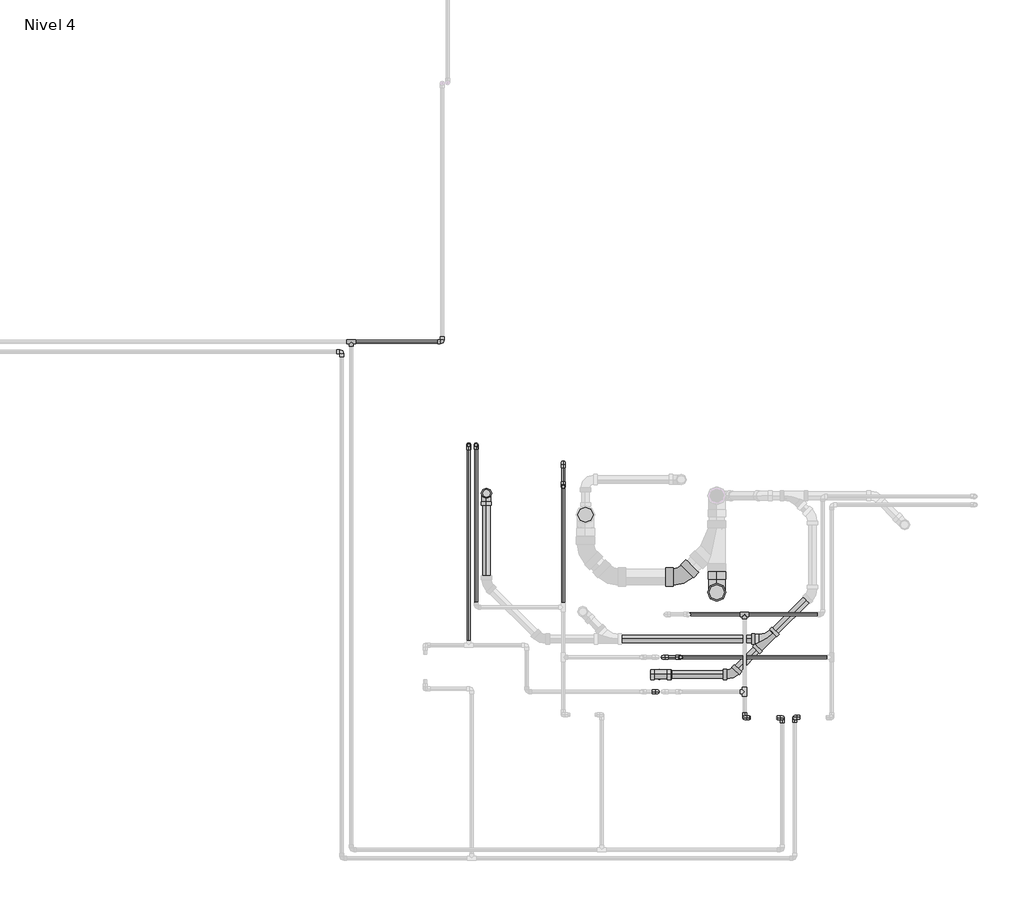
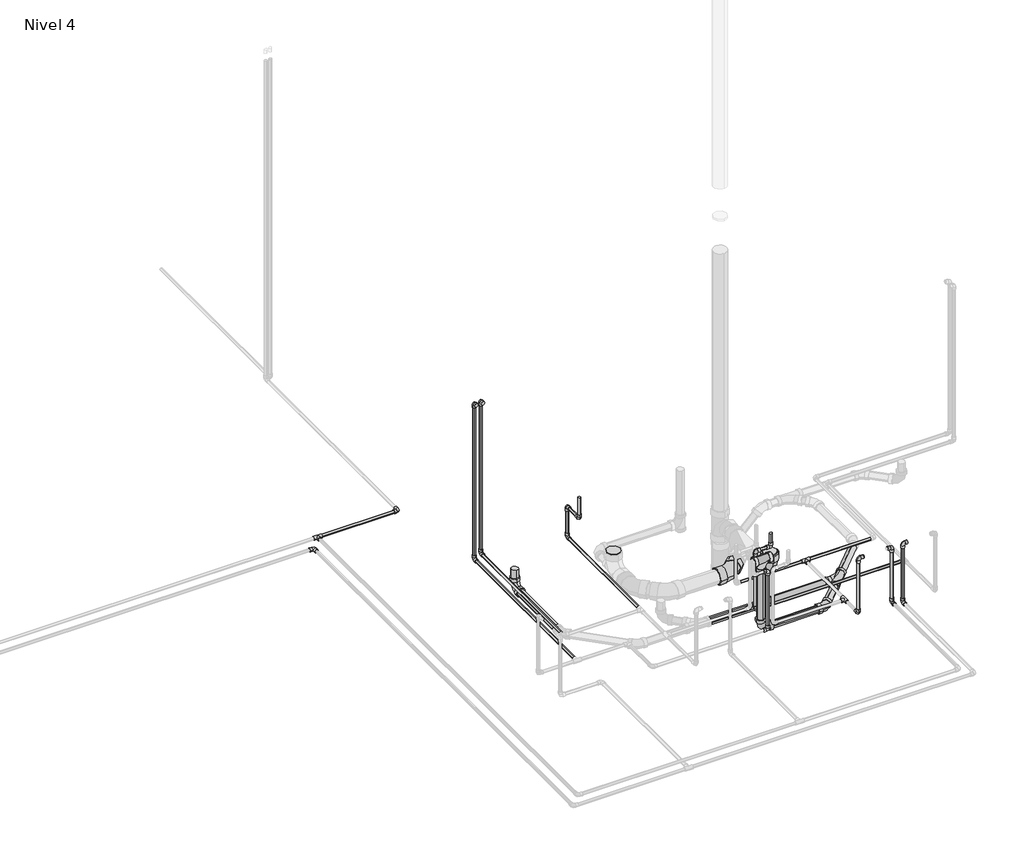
# One storey, part 3 of 9: 30 pipe fittings, 30 pipe segments.
"""IFC4 building model written with IfcOpenShell, lengths in millimetres."""

from ifc_helpers import new_model, si_unit, point, frame, frame_2d, origin, place, context, project, spatial, circle_curve, trimmed, segment, composite_curve, outline, extrude, transform, mapped, element, save
from components import pipe_fitting_ab418b84, pipe_fitting_0163322b, pipe_fitting_6ef1482d, m_codo_pvc_serie_40_9ad74631, m_codo_pvc_serie_40_ba05d404, m_codo_pvc_serie_40_dwv1_5c0ec739, m_codo_pvc_serie_40_dwv1_f5c0a64d, m_codo_pvc_serie_40_dwv1_9a7ca077, m_codo_pvc_serie_40_dwv1_6f1a2495

model = new_model("IFC4")

# Units and contexts
model_context = context("Model", 3, world=origin())
ifc_project = project(units=[si_unit("LENGTHUNIT", "METRE", prefix="MILLI")], contexts=[model_context])

# Site, building, storey
site = spatial("IfcSite", under=ifc_project)
building = spatial("IfcBuilding", under=site)
storey = spatial("IfcBuildingStorey", under=building, Name="Nivel 4", Elevation=8100.0)

# Pipe fittings
placement = place(None, origin())
pipe_fitting_shape = pipe_fitting_ab418b84(model_context)
element("IfcPipeFitting", 1, ObjectType="M_Te - PVC - Serie 40 : Estándar", at=placement, inside=storey, context=model_context, shape_type="MappedRepresentation", body=[
    mapped(pipe_fitting_shape, transform((4915.0072403, 7617.0181394, 8050.0), x_axis=(1.0, 0.0, 0.0), y_axis=(0.0, 1.0, 0.0), z_axis=(0.0, 0.0, 1.0))),
])
element("IfcPipeFitting", 2, ObjectType="M_Te - PVC - Serie 40 : Estándar", at=placement, inside=storey, context=model_context, shape_type="MappedRepresentation", body=[
    mapped(pipe_fitting_shape, transform((7622.9224126, 5206.6215833, 8050.0), x_axis=(0.0, 1.0, 0.0), y_axis=(1.0, 0.0, 0.0), z_axis=(0.0, 0.0, -1.0))),
])
element("IfcPipeFitting", 3, ObjectType="M_Te - PVC - Serie 40 : Estándar", at=placement, inside=storey, context=model_context, shape_type="MappedRepresentation", body=[
    mapped(pipe_fitting_shape, transform((7622.9224126, 5738.1215351, 8050.0), x_axis=(1.0, 0.0, 0.0), y_axis=(0.0, 1.0, 0.0), z_axis=(0.0, 0.0, 1.0))),
])
pipe_fitting_2_shape = pipe_fitting_0163322b(model_context)
element("IfcPipeFitting", 4, ObjectType="M_Sanitario con te de reducción - PVC - Serie 40 - DWV : Estándar", at=placement, inside=storey, context=model_context, shape_type="MappedRepresentation", body=[
    mapped(pipe_fitting_2_shape, transform((7780.3477467, 5569.8260974, 7950.0), x_axis=(-0.707106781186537, -0.7071067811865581, 0.0), y_axis=(0.7071067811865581, -0.707106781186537, 0.0), z_axis=(0.0, 0.0, 1.0))),
])
pipe_fitting_3_shape = pipe_fitting_6ef1482d(model_context)
element("IfcPipeFitting", 5, ObjectType="M_Sanitario con te de reducción - PVC - Serie 40 - DWV : Estándar", at=placement, inside=storey, context=model_context, shape_type="MappedRepresentation", body=[
    mapped(pipe_fitting_3_shape, transform((7035.5216492, 5325.0, 8510.6716548), x_axis=(-1.0, 0.0, 0.0), y_axis=(0.0, 0.0, 1.0), z_axis=(0.0, 1.0, 0.0))),
])
m_codo_pvc_serie_40_shape = m_codo_pvc_serie_40_9ad74631(model_context)
element("IfcPipeFitting", 6, ObjectType="M_Codo - PVC - Serie 40 : Estándar", at=placement, inside=storey, context=model_context, shape_type="MappedRepresentation", body=[
    mapped(m_codo_pvc_serie_40_shape, transform((6373.4849581, 6618.6807861, 8300.0), x_axis=(0.0, 0.0, -1.0), y_axis=(0.0, 1.0, 0.0), z_axis=(1.0, 0.0, 0.0))),
])
element("IfcPipeFitting", 7, ObjectType="M_Codo - PVC - Serie 40 : Estándar", at=placement, inside=storey, context=model_context, shape_type="MappedRepresentation", body=[
    mapped(m_codo_pvc_serie_40_shape, transform((6373.4849581, 6783.6807861, 8300.0), x_axis=(0.0, 1.0, 0.0), y_axis=(0.0, 0.0, -1.0), z_axis=(-1.0, 0.0, 0.0))),
])
element("IfcPipeFitting", 8, ObjectType="M_Codo - PVC - Serie 40 : Estándar", at=placement, inside=storey, context=model_context, shape_type="MappedRepresentation", body=[
    mapped(m_codo_pvc_serie_40_shape, transform((5541.6630441, 7617.0181394, 8050.0), x_axis=(1.0, 0.0, 0.0), y_axis=(0.0, 1.0, 0.0), z_axis=(0.0, 0.0, 1.0))),
])
element("IfcPipeFitting", 9, ObjectType="M_Codo - PVC - Serie 40 : Estándar", at=placement, inside=storey, context=model_context, shape_type="MappedRepresentation", body=[
    mapped(m_codo_pvc_serie_40_shape, transform((6373.4849581, 6783.6807861, 8050.0), x_axis=(0.0, 0.0, -1.0), y_axis=(0.0, -1.0, 0.0), z_axis=(-1.0, 0.0, 0.0))),
])
element("IfcPipeFitting", 10, ObjectType="M_Codo - PVC - Serie 40 : Estándar", at=placement, inside=storey, context=model_context, shape_type="MappedRepresentation", body=[
    mapped(m_codo_pvc_serie_40_shape, transform((7622.9224126, 5026.6215833, 8050.0), x_axis=(0.0, -1.0, 0.0), y_axis=(0.0, 0.0, 1.0), z_axis=(-1.0, 0.0, 0.0))),
])
element("IfcPipeFitting", 11, ObjectType="M_Codo - PVC - Serie 40 : Estándar", at=placement, inside=storey, context=model_context, shape_type="MappedRepresentation", body=[
    mapped(m_codo_pvc_serie_40_shape, transform((7622.9224126, 5026.6215833, 8500.0), x_axis=(0.0, 0.0, 1.0), y_axis=(1.0, 0.0, 0.0), z_axis=(0.0, 1.0, 0.0))),
])
element("IfcPipeFitting", 12, ObjectType="M_Codo - PVC - Serie 40 : Estándar", at=placement, inside=storey, context=model_context, shape_type="MappedRepresentation", body=[
    mapped(m_codo_pvc_serie_40_shape, transform((7882.9224126, 5026.6215833, 8500.0), x_axis=(1.0, 0.0, 0.0), y_axis=(0.0, 0.0, -1.0), z_axis=(0.0, 1.0, 0.0))),
])
element("IfcPipeFitting", 13, ObjectType="M_Codo - PVC - Serie 40 : Estándar", at=placement, inside=storey, context=model_context, shape_type="MappedRepresentation", body=[
    mapped(m_codo_pvc_serie_40_shape, transform((7882.9224126, 5026.6215833, 8050.0), x_axis=(0.0, 0.0, -1.0), y_axis=(0.0, -1.0, 0.0), z_axis=(-1.0, 0.0, 0.0))),
])
element("IfcPipeFitting", 14, ObjectType="M_Codo - PVC - Serie 40 : Estándar", at=placement, inside=storey, context=model_context, shape_type="MappedRepresentation", body=[
    mapped(m_codo_pvc_serie_40_shape, transform((5773.4849581, 6908.5620607, 8050.0), x_axis=(0.0, 1.0, 0.0), y_axis=(0.0, 0.0, 1.0), z_axis=(1.0, 0.0, 0.0))),
])
element("IfcPipeFitting", 15, ObjectType="M_Codo - PVC - Serie 40 : Estándar", at=placement, inside=storey, context=model_context, shape_type="MappedRepresentation", body=[
    mapped(m_codo_pvc_serie_40_shape, transform((5773.4849581, 6908.5620607, 9300.0), x_axis=(0.0, 0.0, 1.0), y_axis=(0.0, -1.0, 0.0), z_axis=(1.0, 0.0, 0.0))),
])
element("IfcPipeFitting", 16, ObjectType="M_Codo - PVC - Serie 40 : Estándar", at=placement, inside=storey, context=model_context, shape_type="MappedRepresentation", body=[
    mapped(m_codo_pvc_serie_40_shape, transform((4848.2736664, 7548.5261191, 8020.0), x_axis=(0.0, 1.0, 0.0), y_axis=(-1.0, 0.0, 0.0), z_axis=(0.0, 0.0, 1.0))),
])
element("IfcPipeFitting", 17, ObjectType="M_Codo - PVC - Serie 40 : Estándar", at=placement, inside=storey, context=model_context, shape_type="MappedRepresentation", body=[
    mapped(m_codo_pvc_serie_40_shape, transform((7968.2736664, 5028.5261191, 8020.0), x_axis=(0.0, 1.0, 0.0), y_axis=(0.0, 0.0, 1.0), z_axis=(1.0, 0.0, 0.0))),
])
element("IfcPipeFitting", 18, ObjectType="M_Codo - PVC - Serie 40 : Estándar", at=placement, inside=storey, context=model_context, shape_type="MappedRepresentation", body=[
    mapped(m_codo_pvc_serie_40_shape, transform((7968.2736664, 5028.5261191, 8500.0), x_axis=(0.0, 0.0, 1.0), y_axis=(1.0, 0.0, 0.0), z_axis=(0.0, 1.0, 0.0))),
])
element("IfcPipeFitting", 19, ObjectType="M_Codo - PVC - Serie 40 : Estándar", at=placement, inside=storey, context=model_context, shape_type="MappedRepresentation", body=[
    mapped(m_codo_pvc_serie_40_shape, transform((7062.9224126, 5443.3784167, 8020.0), x_axis=(0.0, 0.0, -1.0), y_axis=(1.0, 0.0, 0.0), z_axis=(0.0, -1.0, 0.0))),
])
element("IfcPipeFitting", 20, ObjectType="M_Codo - PVC - Serie 40 : Estándar", at=placement, inside=storey, context=model_context, shape_type="MappedRepresentation", body=[
    mapped(m_codo_pvc_serie_40_shape, transform((5723.2442783, 6907.8715833, 8020.0), x_axis=(0.0, 1.0, 0.0), y_axis=(0.0, 0.0, 1.0), z_axis=(1.0, 0.0, 0.0))),
])
element("IfcPipeFitting", 21, ObjectType="M_Codo - PVC - Serie 40 : Estándar", at=placement, inside=storey, context=model_context, shape_type="MappedRepresentation", body=[
    mapped(m_codo_pvc_serie_40_shape, transform((5723.2442783, 6907.8715833, 9300.0), x_axis=(0.0, 0.0, 1.0), y_axis=(0.0, -1.0, 0.0), z_axis=(1.0, 0.0, 0.0))),
])
m_codo_pvc_serie_40_2_shape = m_codo_pvc_serie_40_ba05d404(model_context)
element("IfcPipeFitting", 22, ObjectType="M_Codo - PVC - Serie 40 : Estándar", at=placement, inside=storey, context=model_context, shape_type="MappedRepresentation", body=[
    mapped(m_codo_pvc_serie_40_2_shape, transform((7022.0365713, 5206.6215833, 8500.0), x_axis=(1.0, 0.0, 0.0), y_axis=(0.0, 0.0, 1.0), z_axis=(0.0, -1.0, 0.0))),
])
element("IfcPipeFitting", 23, ObjectType="M_Codo - PVC - Serie 40 : Estándar", at=placement, inside=storey, context=model_context, shape_type="MappedRepresentation", body=[
    mapped(m_codo_pvc_serie_40_2_shape, transform((7022.0365713, 5206.6215833, 8020.0), x_axis=(0.0, 0.0, -1.0), y_axis=(1.0, 0.0, 0.0), z_axis=(0.0, -1.0, 0.0))),
])
element("IfcPipeFitting", 24, ObjectType="M_Codo - PVC - Serie 40 : Estándar", at=placement, inside=storey, context=model_context, shape_type="MappedRepresentation", body=[
    mapped(m_codo_pvc_serie_40_2_shape, transform((7182.9224126, 5443.3784167, 8500.0), x_axis=(0.0, 0.0, -1.0), y_axis=(1.0, 0.0, 0.0), z_axis=(0.0, -1.0, 0.0))),
])
element("IfcPipeFitting", 25, ObjectType="M_Codo - PVC - Serie 40 : Estándar", at=placement, inside=storey, context=model_context, shape_type="MappedRepresentation", body=[
    mapped(m_codo_pvc_serie_40_2_shape, transform((7062.9224126, 5443.3784167, 8500.0), x_axis=(-1.0, 0.0, 0.0), y_axis=(0.0, 0.0, 1.0), z_axis=(0.0, 1.0, 0.0))),
])
m_codo_pvc_serie_40_dwv1_shape = m_codo_pvc_serie_40_dwv1_5c0ec739(model_context)
element("IfcPipeFitting", 26, ObjectType="M_Codo - PVC - Serie 40 - DWV1 : Estándar 2", at=placement, inside=storey, context=model_context, shape_type="MappedRepresentation", body=[
    mapped(m_codo_pvc_serie_40_dwv1_shape, transform((7035.5216492, 5325.0, 7950.0), x_axis=(0.0, 0.0, -1.0), y_axis=(1.0, 0.0, 0.0), z_axis=(0.0, -1.0, 0.0))),
])
element("IfcPipeFitting", 27, ObjectType="M_Codo - PVC - Serie 40 - DWV1 : Estándar 2", at=placement, inside=storey, context=model_context, shape_type="MappedRepresentation", body=[
    mapped(m_codo_pvc_serie_40_dwv1_shape, transform((5845.3355737, 6572.9803974, 7950.0), x_axis=(0.0, 1.0, 0.0), y_axis=(0.0, 0.0, 1.0), z_axis=(1.0, 0.0, 0.0))),
])
m_codo_pvc_serie_40_dwv1_2_shape = m_codo_pvc_serie_40_dwv1_f5c0a64d(model_context)
element("IfcPipeFitting", 28, ObjectType="M_Codo - PVC - Serie 40 - DWV1 : Estándar 2", at=placement, inside=storey, context=model_context, shape_type="MappedRepresentation", body=[
    mapped(m_codo_pvc_serie_40_dwv1_2_shape, transform((7432.3176766, 5891.6039726, 7950.0), x_axis=(0.0, 0.0, -1.0), y_axis=(0.0, 1.0, 0.0), z_axis=(1.0, 0.0, 0.0))),
])
m_codo_pvc_serie_40_dwv1_3_shape = m_codo_pvc_serie_40_dwv1_9a7ca077(model_context)
element("IfcPipeFitting", 29, ObjectType="M_Codo - PVC - Serie 40 - DWV1 : Estándar 2", at=placement, inside=storey, context=model_context, shape_type="MappedRepresentation", body=[
    mapped(m_codo_pvc_serie_40_dwv1_3_shape, transform((7188.0943794, 5996.1455314, 7950.0), x_axis=(1.0, 0.0, 0.0), y_axis=(0.0, 1.0, 0.0), z_axis=(0.0, 0.0, 1.0))),
])
m_codo_pvc_serie_40_dwv1_4_shape = m_codo_pvc_serie_40_dwv1_6f1a2495(model_context)
element("IfcPipeFitting", 30, ObjectType="M_Codo - PVC - Serie 40 - DWV1 : Estándar 2", at=placement, inside=storey, context=model_context, shape_type="MappedRepresentation", body=[
    mapped(m_codo_pvc_serie_40_dwv1_4_shape, transform((7535.5216492, 5325.0, 7950.0), x_axis=(1.0, 0.0, 0.0), y_axis=(0.0, 1.0, 0.0), z_axis=(0.0, 0.0, 1.0))),
])

# Pipe segments
element("IfcPipeSegment", 31, ObjectType="Tuberia PVC Agua Fria", at=placement, inside=storey, context=model_context, shape_type="SweptSolid", body=[
    extrude(outline(composite_curve([segment(trimmed(circle_curve(frame_2d((8300.0, 6373.4849581)), 10.31875), [point((8300.0, 6383.8037081))], [point((8310.31875, 6373.4849581))], False, "CARTESIAN"), True, "CONTINUOUS"), segment(trimmed(circle_curve(frame_2d((8300.0, 6373.4849581)), 10.31875), [point((8310.31875, 6373.4849581))], [point((8300.0, 6363.1662081))], False, "CARTESIAN"), True, "CONTINUOUS"), segment(trimmed(circle_curve(frame_2d((8300.0, 6373.4849581)), 10.31875), [point((8300.0, 6363.1662081))], [point((8289.68125, 6373.4849581))], False, "CARTESIAN"), True, "CONTINUOUS"), segment(trimmed(circle_curve(frame_2d((8300.0, 6373.4849581)), 10.31875), [point((8289.68125, 6373.4849581))], [point((8300.0, 6383.8037081))], False, "CARTESIAN"), True, "CONTINUOUS")], self_intersect=False)), frame((0.0, 6652.0817861, 0.0), z_axis=(0.0, 1.0, 0.0), x_axis=(0.0, 0.0, 1.0)), (0.0, 0.0, 1.0), 98.198),
])
element("IfcPipeSegment", 32, ObjectType="Tuberia PVC Agua Fria", at=placement, inside=storey, context=model_context, shape_type="SweptSolid", body=[
    extrude(outline(composite_curve([segment(trimmed(circle_curve(frame_2d((6373.4849581, 6618.6807861)), 10.31875), [point((6383.8037081, 6618.6807861))], [point((6373.4849581, 6608.3620361))], False, "CARTESIAN"), True, "CONTINUOUS"), segment(trimmed(circle_curve(frame_2d((6373.4849581, 6618.6807861)), 10.31875), [point((6373.4849581, 6608.3620361))], [point((6363.1662081, 6618.6807861))], False, "CARTESIAN"), True, "CONTINUOUS"), segment(trimmed(circle_curve(frame_2d((6373.4849581, 6618.6807861)), 10.31875), [point((6363.1662081, 6618.6807861))], [point((6373.4849581, 6628.9995361))], False, "CARTESIAN"), True, "CONTINUOUS"), segment(trimmed(circle_curve(frame_2d((6373.4849581, 6618.6807861)), 10.31875), [point((6373.4849581, 6628.9995361))], [point((6383.8037081, 6618.6807861))], False, "CARTESIAN"), True, "CONTINUOUS")], self_intersect=False)), frame((0.0, 0.0, 8333.401), z_axis=(0.0, 0.0, 1.0), x_axis=(1.0, 0.0, 0.0)), (0.0, 0.0, 1.0), 139.7562509),
])
element("IfcPipeSegment", 33, ObjectType="Tuberia PVC Agua Fria", at=placement, inside=storey, context=model_context, shape_type="SweptSolid", body=[
    extrude(outline(composite_curve([segment(trimmed(circle_curve(frame_2d((6373.4849581, 6783.6807861)), 10.31875), [point((6383.8037081, 6783.6807861))], [point((6373.4849581, 6773.3620361))], False, "CARTESIAN"), True, "CONTINUOUS"), segment(trimmed(circle_curve(frame_2d((6373.4849581, 6783.6807861)), 10.31875), [point((6373.4849581, 6773.3620361))], [point((6363.1662081, 6783.6807861))], False, "CARTESIAN"), True, "CONTINUOUS"), segment(trimmed(circle_curve(frame_2d((6373.4849581, 6783.6807861)), 10.31875), [point((6363.1662081, 6783.6807861))], [point((6373.4849581, 6793.9995361))], False, "CARTESIAN"), True, "CONTINUOUS"), segment(trimmed(circle_curve(frame_2d((6373.4849581, 6783.6807861)), 10.31875), [point((6373.4849581, 6793.9995361))], [point((6383.8037081, 6783.6807861))], False, "CARTESIAN"), True, "CONTINUOUS")], self_intersect=False)), frame((0.0, 0.0, 8083.401), z_axis=(0.0, 0.0, 1.0), x_axis=(1.0, 0.0, 0.0)), (0.0, 0.0, 1.0), 183.198),
])
element("IfcPipeSegment", 34, ObjectType="Tuberia PVC Agua Fria", at=placement, inside=storey, context=model_context, shape_type="SweptSolid", body=[
    extrude(outline(composite_curve([segment(trimmed(circle_curve(frame_2d((7617.0181394, 8050.0)), 10.31875), [point((7627.3368894, 8050.0))], [point((7617.0181394, 8039.68125))], False, "CARTESIAN"), True, "CONTINUOUS"), segment(trimmed(circle_curve(frame_2d((7617.0181394, 8050.0)), 10.31875), [point((7617.0181394, 8039.68125))], [point((7606.6993894, 8050.0))], False, "CARTESIAN"), True, "CONTINUOUS"), segment(trimmed(circle_curve(frame_2d((7617.0181394, 8050.0)), 10.31875), [point((7606.6993894, 8050.0))], [point((7617.0181394, 8060.31875))], False, "CARTESIAN"), True, "CONTINUOUS"), segment(trimmed(circle_curve(frame_2d((7617.0181394, 8050.0)), 10.31875), [point((7617.0181394, 8060.31875))], [point((7627.3368894, 8050.0))], False, "CARTESIAN"), True, "CONTINUOUS")], self_intersect=False)), frame((4945.4673966, 0.0, 0.0), z_axis=(1.0, 0.0, 0.0), x_axis=(0.0, 1.0, 0.0)), (0.0, 0.0, 1.0), 562.7946475),
])
element("IfcPipeSegment", 35, ObjectType="Tuberia PVC Agua Fria", at=placement, inside=storey, context=model_context, shape_type="SweptSolid", body=[
    extrude(outline(composite_curve([segment(trimmed(circle_curve(frame_2d((8050.0, 6373.4849581)), 10.31875), [point((8050.0, 6383.8037081))], [point((8060.31875, 6373.4849581))], False, "CARTESIAN"), True, "CONTINUOUS"), segment(trimmed(circle_curve(frame_2d((8050.0, 6373.4849581)), 10.31875), [point((8060.31875, 6373.4849581))], [point((8050.0, 6363.1662081))], False, "CARTESIAN"), True, "CONTINUOUS"), segment(trimmed(circle_curve(frame_2d((8050.0, 6373.4849581)), 10.31875), [point((8050.0, 6363.1662081))], [point((8039.68125, 6373.4849581))], False, "CARTESIAN"), True, "CONTINUOUS"), segment(trimmed(circle_curve(frame_2d((8050.0, 6373.4849581)), 10.31875), [point((8039.68125, 6373.4849581))], [point((8050.0, 6383.8037081))], False, "CARTESIAN"), True, "CONTINUOUS")], self_intersect=False)), frame((0.0, 5819.0222169, 0.0), z_axis=(0.0, 1.0, 0.0), x_axis=(0.0, 0.0, 1.0)), (0.0, 0.0, 1.0), 931.2575692),
])
element("IfcPipeSegment", 36, ObjectType="Tuberia PVC Agua Fria", at=placement, inside=storey, context=model_context, shape_type="SweptSolid", body=[
    extrude(outline(composite_curve([segment(trimmed(circle_curve(frame_2d((7622.9224126, 5026.6215833)), 10.31875), [point((7612.6036626, 5026.6215833))], [point((7622.9224126, 5036.9403333))], False, "CARTESIAN"), True, "CONTINUOUS"), segment(trimmed(circle_curve(frame_2d((7622.9224126, 5026.6215833)), 10.31875), [point((7622.9224126, 5036.9403333))], [point((7633.2411626, 5026.6215833))], False, "CARTESIAN"), True, "CONTINUOUS"), segment(trimmed(circle_curve(frame_2d((7622.9224126, 5026.6215833)), 10.31875), [point((7633.2411626, 5026.6215833))], [point((7622.9224126, 5016.3028333))], False, "CARTESIAN"), True, "CONTINUOUS"), segment(trimmed(circle_curve(frame_2d((7622.9224126, 5026.6215833)), 10.31875), [point((7622.9224126, 5016.3028333))], [point((7612.6036626, 5026.6215833))], False, "CARTESIAN"), True, "CONTINUOUS")], self_intersect=False)), frame((0.0, 0.0, 8083.401), z_axis=(0.0, 0.0, 1.0), x_axis=(1.0, 0.0, 0.0)), (0.0, 0.0, 1.0), 383.198),
])
element("IfcPipeSegment", 37, ObjectType="Tuberia PVC Agua Fria", at=placement, inside=storey, context=model_context, shape_type="SweptSolid", body=[
    extrude(outline(composite_curve([segment(trimmed(circle_curve(frame_2d((7882.9224126, 5026.6215833)), 10.31875), [point((7893.2411626, 5026.6215833))], [point((7882.9224126, 5016.3028333))], False, "CARTESIAN"), True, "CONTINUOUS"), segment(trimmed(circle_curve(frame_2d((7882.9224126, 5026.6215833)), 10.31875), [point((7882.9224126, 5016.3028333))], [point((7872.6036626, 5026.6215833))], False, "CARTESIAN"), True, "CONTINUOUS"), segment(trimmed(circle_curve(frame_2d((7882.9224126, 5026.6215833)), 10.31875), [point((7872.6036626, 5026.6215833))], [point((7882.9224126, 5036.9403333))], False, "CARTESIAN"), True, "CONTINUOUS"), segment(trimmed(circle_curve(frame_2d((7882.9224126, 5026.6215833)), 10.31875), [point((7882.9224126, 5036.9403333))], [point((7893.2411626, 5026.6215833))], False, "CARTESIAN"), True, "CONTINUOUS")], self_intersect=False)), frame((0.0, 0.0, 8083.401), z_axis=(0.0, 0.0, 1.0), x_axis=(1.0, 0.0, 0.0)), (0.0, 0.0, 1.0), 383.198),
])
element("IfcPipeSegment", 38, ObjectType="Tuberia PVC Agua Fria", at=placement, inside=storey, context=model_context, shape_type="SweptSolid", body=[
    extrude(outline(composite_curve([segment(trimmed(circle_curve(frame_2d((8050.0, 5773.4849581)), 10.31875), [point((8050.0, 5783.8037081))], [point((8060.31875, 5773.4849581))], False, "CARTESIAN"), True, "CONTINUOUS"), segment(trimmed(circle_curve(frame_2d((8050.0, 5773.4849581)), 10.31875), [point((8060.31875, 5773.4849581))], [point((8050.0, 5763.1662081))], False, "CARTESIAN"), True, "CONTINUOUS"), segment(trimmed(circle_curve(frame_2d((8050.0, 5773.4849581)), 10.31875), [point((8050.0, 5763.1662081))], [point((8039.68125, 5773.4849581))], False, "CARTESIAN"), True, "CONTINUOUS"), segment(trimmed(circle_curve(frame_2d((8050.0, 5773.4849581)), 10.31875), [point((8039.68125, 5773.4849581))], [point((8050.0, 5783.8037081))], False, "CARTESIAN"), True, "CONTINUOUS")], self_intersect=False)), frame((0.0, 5821.9630607, 0.0), z_axis=(0.0, 1.0, 0.0), x_axis=(0.0, 0.0, 1.0)), (0.0, 0.0, 1.0), 1053.198),
])
element("IfcPipeSegment", 39, ObjectType="Tuberia PVC Agua Fria", at=placement, inside=storey, context=model_context, shape_type="SweptSolid", body=[
    extrude(outline(composite_curve([segment(trimmed(circle_curve(frame_2d((5773.4849581, 6908.5620607)), 10.31875), [point((5763.1662081, 6908.5620607))], [point((5773.4849581, 6918.8808107))], False, "CARTESIAN"), True, "CONTINUOUS"), segment(trimmed(circle_curve(frame_2d((5773.4849581, 6908.5620607)), 10.31875), [point((5773.4849581, 6918.8808107))], [point((5783.8037081, 6908.5620607))], False, "CARTESIAN"), True, "CONTINUOUS"), segment(trimmed(circle_curve(frame_2d((5773.4849581, 6908.5620607)), 10.31875), [point((5783.8037081, 6908.5620607))], [point((5773.4849581, 6898.2433107))], False, "CARTESIAN"), True, "CONTINUOUS"), segment(trimmed(circle_curve(frame_2d((5773.4849581, 6908.5620607)), 10.31875), [point((5773.4849581, 6898.2433107))], [point((5763.1662081, 6908.5620607))], False, "CARTESIAN"), True, "CONTINUOUS")], self_intersect=False)), frame((0.0, 0.0, 8083.401), z_axis=(0.0, 0.0, 1.0), x_axis=(1.0, 0.0, 0.0)), (0.0, 0.0, 1.0), 1183.198),
])
element("IfcPipeSegment", 40, ObjectType="Tuberia PVC Agua Fria", at=placement, inside=storey, context=model_context, shape_type="SweptSolid", body=[
    extrude(outline(composite_curve([segment(trimmed(circle_curve(frame_2d((5738.1215351, 8050.0)), 10.31875), [point((5748.4402851, 8050.0))], [point((5738.1215351, 8039.68125))], False, "CARTESIAN"), True, "CONTINUOUS"), segment(trimmed(circle_curve(frame_2d((5738.1215351, 8050.0)), 10.31875), [point((5738.1215351, 8039.68125))], [point((5727.8027851, 8050.0))], False, "CARTESIAN"), True, "CONTINUOUS"), segment(trimmed(circle_curve(frame_2d((5738.1215351, 8050.0)), 10.31875), [point((5727.8027851, 8050.0))], [point((5738.1215351, 8060.31875))], False, "CARTESIAN"), True, "CONTINUOUS"), segment(trimmed(circle_curve(frame_2d((5738.1215351, 8050.0)), 10.31875), [point((5738.1215351, 8060.31875))], [point((5748.4402851, 8050.0))], False, "CARTESIAN"), True, "CONTINUOUS")], self_intersect=False)), frame((7112.7418631, 0.0, 0.0), z_axis=(1.0, 0.0, 0.0), x_axis=(0.0, 1.0, 0.0)), (0.0, 0.0, 1.0), 479.7203933),
])
element("IfcPipeSegment", 41, ObjectType="Tuberia PVC Agua Fria", at=placement, inside=storey, context=model_context, shape_type="SweptSolid", body=[
    extrude(outline(composite_curve([segment(trimmed(circle_curve(frame_2d((5738.1215351, 8050.0)), 10.31875), [point((5748.4402851, 8050.0))], [point((5738.1215351, 8039.68125))], False, "CARTESIAN"), True, "CONTINUOUS"), segment(trimmed(circle_curve(frame_2d((5738.1215351, 8050.0)), 10.31875), [point((5738.1215351, 8039.68125))], [point((5727.8027851, 8050.0))], False, "CARTESIAN"), True, "CONTINUOUS"), segment(trimmed(circle_curve(frame_2d((5738.1215351, 8050.0)), 10.31875), [point((5727.8027851, 8050.0))], [point((5738.1215351, 8060.31875))], False, "CARTESIAN"), True, "CONTINUOUS"), segment(trimmed(circle_curve(frame_2d((5738.1215351, 8050.0)), 10.31875), [point((5738.1215351, 8060.31875))], [point((5748.4402851, 8050.0))], False, "CARTESIAN"), True, "CONTINUOUS")], self_intersect=False)), frame((7653.3825689, 0.0, 0.0), z_axis=(1.0, 0.0, 0.0), x_axis=(0.0, 1.0, 0.0)), (0.0, 0.0, 1.0), 473.9388792),
])
element("IfcPipeSegment", 42, ObjectType="Tuberia PVC Agua Fria", at=placement, inside=storey, context=model_context, shape_type="SweptSolid", body=[
    extrude(outline(composite_curve([segment(trimmed(circle_curve(frame_2d((5026.6215833, 8500.0)), 10.31875), [point((5016.3028333, 8500.0))], [point((5026.6215833, 8510.31875))], False, "CARTESIAN"), True, "CONTINUOUS"), segment(trimmed(circle_curve(frame_2d((5026.6215833, 8500.0)), 10.31875), [point((5026.6215833, 8510.31875))], [point((5036.9403333, 8500.0))], False, "CARTESIAN"), True, "CONTINUOUS"), segment(trimmed(circle_curve(frame_2d((5026.6215833, 8500.0)), 10.31875), [point((5036.9403333, 8500.0))], [point((5026.6215833, 8489.68125))], False, "CARTESIAN"), True, "CONTINUOUS"), segment(trimmed(circle_curve(frame_2d((5026.6215833, 8500.0)), 10.31875), [point((5026.6215833, 8489.68125))], [point((5016.3028333, 8500.0))], False, "CARTESIAN"), True, "CONTINUOUS")], self_intersect=False)), frame((7656.3234126, 0.0, 0.0), z_axis=(1.0, 0.0, 0.0), x_axis=(0.0, 1.0, 0.0)), (0.0, 0.0, 1.0), 7.599),
])
element("IfcPipeSegment", 43, ObjectType="Tuberia PVC Agua Caliente", at=placement, inside=storey, context=model_context, shape_type="SweptSolid", body=[
    extrude(outline(composite_curve([segment(trimmed(circle_curve(frame_2d((7968.2736664, 5028.5261191)), 10.31875), [point((7957.9549164, 5028.5261191))], [point((7968.2736664, 5038.8448691))], False, "CARTESIAN"), True, "CONTINUOUS"), segment(trimmed(circle_curve(frame_2d((7968.2736664, 5028.5261191)), 10.31875), [point((7968.2736664, 5038.8448691))], [point((7978.5924164, 5028.5261191))], False, "CARTESIAN"), True, "CONTINUOUS"), segment(trimmed(circle_curve(frame_2d((7968.2736664, 5028.5261191)), 10.31875), [point((7978.5924164, 5028.5261191))], [point((7968.2736664, 5018.2073691))], False, "CARTESIAN"), True, "CONTINUOUS"), segment(trimmed(circle_curve(frame_2d((7968.2736664, 5028.5261191)), 10.31875), [point((7968.2736664, 5018.2073691))], [point((7957.9549164, 5028.5261191))], False, "CARTESIAN"), True, "CONTINUOUS")], self_intersect=False)), frame((0.0, 0.0, 8053.401), z_axis=(0.0, 0.0, 1.0), x_axis=(1.0, 0.0, 0.0)), (0.0, 0.0, 1.0), 413.198),
])
element("IfcPipeSegment", 44, ObjectType="Tuberia PVC Agua Caliente", at=placement, inside=storey, context=model_context, shape_type="SweptSolid", body=[
    extrude(outline(composite_curve([segment(trimmed(circle_curve(frame_2d((7022.0365713, 5206.6215833)), 10.31875), [point((7032.3553213, 5206.6215833))], [point((7022.0365713, 5196.3028333))], False, "CARTESIAN"), True, "CONTINUOUS"), segment(trimmed(circle_curve(frame_2d((7022.0365713, 5206.6215833)), 10.31875), [point((7022.0365713, 5196.3028333))], [point((7011.7178213, 5206.6215833))], False, "CARTESIAN"), True, "CONTINUOUS"), segment(trimmed(circle_curve(frame_2d((7022.0365713, 5206.6215833)), 10.31875), [point((7011.7178213, 5206.6215833))], [point((7022.0365713, 5216.9403333))], False, "CARTESIAN"), True, "CONTINUOUS"), segment(trimmed(circle_curve(frame_2d((7022.0365713, 5206.6215833)), 10.31875), [point((7022.0365713, 5216.9403333))], [point((7032.3553213, 5206.6215833))], False, "CARTESIAN"), True, "CONTINUOUS")], self_intersect=False)), frame((0.0, 0.0, 8053.401), z_axis=(0.0, 0.0, 1.0), x_axis=(1.0, 0.0, 0.0)), (0.0, 0.0, 1.0), 413.198),
])
element("IfcPipeSegment", 45, ObjectType="Tuberia PVC Agua Caliente", at=placement, inside=storey, context=model_context, shape_type="SweptSolid", body=[
    extrude(outline(composite_curve([segment(trimmed(circle_curve(frame_2d((5443.3784167, 8500.0)), 10.31875), [point((5453.6971667, 8500.0))], [point((5443.3784167, 8489.68125))], False, "CARTESIAN"), True, "CONTINUOUS"), segment(trimmed(circle_curve(frame_2d((5443.3784167, 8500.0)), 10.31875), [point((5443.3784167, 8489.68125))], [point((5433.0596667, 8500.0))], False, "CARTESIAN"), True, "CONTINUOUS"), segment(trimmed(circle_curve(frame_2d((5443.3784167, 8500.0)), 10.31875), [point((5433.0596667, 8500.0))], [point((5443.3784167, 8510.31875))], False, "CARTESIAN"), True, "CONTINUOUS"), segment(trimmed(circle_curve(frame_2d((5443.3784167, 8500.0)), 10.31875), [point((5443.3784167, 8510.31875))], [point((5453.6971667, 8500.0))], False, "CARTESIAN"), True, "CONTINUOUS")], self_intersect=False)), frame((7096.3234126, 0.0, 0.0), z_axis=(1.0, 0.0, 0.0), x_axis=(0.0, 1.0, 0.0)), (0.0, 0.0, 1.0), 53.198),
])
element("IfcPipeSegment", 46, ObjectType="Tuberia PVC Agua Caliente", at=placement, inside=storey, context=model_context, shape_type="SweptSolid", body=[
    extrude(outline(composite_curve([segment(trimmed(circle_curve(frame_2d((7182.9224126, 5443.3784167)), 10.31875), [point((7193.2411626, 5443.3784167))], [point((7182.9224126, 5433.0596667))], False, "CARTESIAN"), True, "CONTINUOUS"), segment(trimmed(circle_curve(frame_2d((7182.9224126, 5443.3784167)), 10.31875), [point((7182.9224126, 5433.0596667))], [point((7172.6036626, 5443.3784167))], False, "CARTESIAN"), True, "CONTINUOUS"), segment(trimmed(circle_curve(frame_2d((7182.9224126, 5443.3784167)), 10.31875), [point((7172.6036626, 5443.3784167))], [point((7182.9224126, 5453.6971667))], False, "CARTESIAN"), True, "CONTINUOUS"), segment(trimmed(circle_curve(frame_2d((7182.9224126, 5443.3784167)), 10.31875), [point((7182.9224126, 5453.6971667))], [point((7193.2411626, 5443.3784167))], False, "CARTESIAN"), True, "CONTINUOUS")], self_intersect=False)), frame((0.0, 0.0, 8533.401), z_axis=(0.0, 0.0, 1.0), x_axis=(1.0, 0.0, 0.0)), (0.0, 0.0, 1.0), 74.0983614),
])
element("IfcPipeSegment", 47, ObjectType="Tuberia PVC Agua Caliente", at=placement, inside=storey, context=model_context, shape_type="SweptSolid", body=[
    extrude(outline(composite_curve([segment(trimmed(circle_curve(frame_2d((5443.3784167, 8020.0)), 10.31875), [point((5433.0596667, 8020.0))], [point((5443.3784167, 8030.31875))], False, "CARTESIAN"), True, "CONTINUOUS"), segment(trimmed(circle_curve(frame_2d((5443.3784167, 8020.0)), 10.31875), [point((5443.3784167, 8030.31875))], [point((5453.6971667, 8020.0))], False, "CARTESIAN"), True, "CONTINUOUS"), segment(trimmed(circle_curve(frame_2d((5443.3784167, 8020.0)), 10.31875), [point((5453.6971667, 8020.0))], [point((5443.3784167, 8009.68125))], False, "CARTESIAN"), True, "CONTINUOUS"), segment(trimmed(circle_curve(frame_2d((5443.3784167, 8020.0)), 10.31875), [point((5443.3784167, 8009.68125))], [point((5433.0596667, 8020.0))], False, "CARTESIAN"), True, "CONTINUOUS")], self_intersect=False)), frame((7096.3234126, 0.0, 0.0), z_axis=(1.0, 0.0, 0.0), x_axis=(0.0, 1.0, 0.0)), (0.0, 0.0, 1.0), 1096.4900975),
])
element("IfcPipeSegment", 48, ObjectType="Tuberia PVC Agua Caliente", at=placement, inside=storey, context=model_context, shape_type="SweptSolid", body=[
    extrude(outline(composite_curve([segment(trimmed(circle_curve(frame_2d((7062.9224126, 5443.3784167)), 10.31875), [point((7073.2411626, 5443.3784167))], [point((7062.9224126, 5433.0596667))], False, "CARTESIAN"), True, "CONTINUOUS"), segment(trimmed(circle_curve(frame_2d((7062.9224126, 5443.3784167)), 10.31875), [point((7062.9224126, 5433.0596667))], [point((7052.6036626, 5443.3784167))], False, "CARTESIAN"), True, "CONTINUOUS"), segment(trimmed(circle_curve(frame_2d((7062.9224126, 5443.3784167)), 10.31875), [point((7052.6036626, 5443.3784167))], [point((7062.9224126, 5453.6971667))], False, "CARTESIAN"), True, "CONTINUOUS"), segment(trimmed(circle_curve(frame_2d((7062.9224126, 5443.3784167)), 10.31875), [point((7062.9224126, 5453.6971667))], [point((7073.2411626, 5443.3784167))], False, "CARTESIAN"), True, "CONTINUOUS")], self_intersect=False)), frame((0.0, 0.0, 8053.401), z_axis=(0.0, 0.0, 1.0), x_axis=(1.0, 0.0, 0.0)), (0.0, 0.0, 1.0), 413.198),
])
element("IfcPipeSegment", 49, ObjectType="Tuberia PVC Agua Caliente", at=placement, inside=storey, context=model_context, shape_type="SweptSolid", body=[
    extrude(outline(composite_curve([segment(trimmed(circle_curve(frame_2d((8020.0, 5723.2442783)), 10.31875), [point((8020.0, 5733.5630283))], [point((8030.31875, 5723.2442783))], False, "CARTESIAN"), True, "CONTINUOUS"), segment(trimmed(circle_curve(frame_2d((8020.0, 5723.2442783)), 10.31875), [point((8030.31875, 5723.2442783))], [point((8020.0, 5712.9255283))], False, "CARTESIAN"), True, "CONTINUOUS"), segment(trimmed(circle_curve(frame_2d((8020.0, 5723.2442783)), 10.31875), [point((8020.0, 5712.9255283))], [point((8009.68125, 5723.2442783))], False, "CARTESIAN"), True, "CONTINUOUS"), segment(trimmed(circle_curve(frame_2d((8020.0, 5723.2442783)), 10.31875), [point((8009.68125, 5723.2442783))], [point((8020.0, 5733.5630283))], False, "CARTESIAN"), True, "CONTINUOUS")], self_intersect=False)), frame((0.0, 5557.0817396, 0.0), z_axis=(0.0, 1.0, 0.0), x_axis=(0.0, 0.0, 1.0)), (0.0, 0.0, 1.0), 1317.3888438),
])
element("IfcPipeSegment", 50, ObjectType="Tuberia PVC Agua Caliente", at=placement, inside=storey, context=model_context, shape_type="SweptSolid", body=[
    extrude(outline(composite_curve([segment(trimmed(circle_curve(frame_2d((5723.2442783, 6907.8715833)), 10.31875), [point((5712.9255283, 6907.8715833))], [point((5723.2442783, 6918.1903333))], False, "CARTESIAN"), True, "CONTINUOUS"), segment(trimmed(circle_curve(frame_2d((5723.2442783, 6907.8715833)), 10.31875), [point((5723.2442783, 6918.1903333))], [point((5733.5630283, 6907.8715833))], False, "CARTESIAN"), True, "CONTINUOUS"), segment(trimmed(circle_curve(frame_2d((5723.2442783, 6907.8715833)), 10.31875), [point((5733.5630283, 6907.8715833))], [point((5723.2442783, 6897.5528333))], False, "CARTESIAN"), True, "CONTINUOUS"), segment(trimmed(circle_curve(frame_2d((5723.2442783, 6907.8715833)), 10.31875), [point((5723.2442783, 6897.5528333))], [point((5712.9255283, 6907.8715833))], False, "CARTESIAN"), True, "CONTINUOUS")], self_intersect=False)), frame((0.0, 0.0, 8053.401), z_axis=(0.0, 0.0, 1.0), x_axis=(1.0, 0.0, 0.0)), (0.0, 0.0, 1.0), 1213.198),
])
element("IfcPipeSegment", 51, ObjectType="Tuberia PVC Sanitario", at=placement, inside=storey, context=model_context, shape_type="SweptSolid", body=[
    extrude(outline(composite_curve([segment(trimmed(circle_curve(frame_2d((6526.9673956, 6425.7039726)), 52.3875), [point((6579.3548956, 6425.7039726))], [point((6526.9673956, 6373.3164726))], False, "CARTESIAN"), True, "CONTINUOUS"), segment(trimmed(circle_curve(frame_2d((6526.9673956, 6425.7039726)), 52.3875), [point((6526.9673956, 6373.3164726))], [point((6474.5798956, 6425.7039726))], False, "CARTESIAN"), True, "CONTINUOUS"), segment(trimmed(circle_curve(frame_2d((6526.9673956, 6425.7039726)), 52.3875), [point((6474.5798956, 6425.7039726))], [point((6526.9673956, 6478.0914726))], False, "CARTESIAN"), True, "CONTINUOUS"), segment(trimmed(circle_curve(frame_2d((6526.9673956, 6425.7039726)), 52.3875), [point((6526.9673956, 6478.0914726))], [point((6579.3548956, 6425.7039726))], False, "CARTESIAN"), True, "CONTINUOUS")], self_intersect=False)), frame((0.0, 0.0, 8096.8159687), z_axis=(0.0, 0.0, 1.0), x_axis=(1.0, 0.0, 0.0)), (0.0, 0.0, 1.0), 3.1840313),
])
element("IfcPipeSegment", 52, ObjectType="Tuberia PVC Sanitario", at=placement, inside=storey, context=model_context, shape_type="SweptSolid", body=[
    extrude(outline(composite_curve([segment(trimmed(circle_curve(frame_2d((7432.3176766, 5891.6039726)), 52.3875), [point((7484.7051766, 5891.6039726))], [point((7432.3176766, 5839.2164726))], False, "CARTESIAN"), True, "CONTINUOUS"), segment(trimmed(circle_curve(frame_2d((7432.3176766, 5891.6039726)), 52.3875), [point((7432.3176766, 5839.2164726))], [point((7379.9301766, 5891.6039726))], False, "CARTESIAN"), True, "CONTINUOUS"), segment(trimmed(circle_curve(frame_2d((7432.3176766, 5891.6039726)), 52.3875), [point((7379.9301766, 5891.6039726))], [point((7432.3176766, 5943.9914726))], False, "CARTESIAN"), True, "CONTINUOUS"), segment(trimmed(circle_curve(frame_2d((7432.3176766, 5891.6039726)), 52.3875), [point((7432.3176766, 5943.9914726))], [point((7484.7051766, 5891.6039726))], False, "CARTESIAN"), True, "CONTINUOUS")], self_intersect=False)), frame((0.0, 0.0, 8091.4700625), z_axis=(0.0, 0.0, 1.0), x_axis=(1.0, 0.0, 0.0)), (0.0, 0.0, 1.0), 8.5299375),
])
element("IfcPipeSegment", 53, ObjectType="Tuberia PVC Sanitario", at=placement, inside=storey, context=model_context, shape_type="SweptSolid", body=[
    extrude(outline(composite_curve([segment(trimmed(circle_curve(frame_2d((5325.0, 8510.6716548)), 26.9875), [point((5351.9875, 8510.6716548))], [point((5325.0, 8483.6841548))], False, "CARTESIAN"), True, "CONTINUOUS"), segment(trimmed(circle_curve(frame_2d((5325.0, 8510.6716548)), 26.9875), [point((5325.0, 8483.6841548))], [point((5298.0125, 8510.6716548))], False, "CARTESIAN"), True, "CONTINUOUS"), segment(trimmed(circle_curve(frame_2d((5325.0, 8510.6716548)), 26.9875), [point((5298.0125, 8510.6716548))], [point((5325.0, 8537.6591548))], False, "CARTESIAN"), True, "CONTINUOUS"), segment(trimmed(circle_curve(frame_2d((5325.0, 8510.6716548)), 26.9875), [point((5325.0, 8537.6591548))], [point((5351.9875, 8510.6716548))], False, "CARTESIAN"), True, "CONTINUOUS")], self_intersect=False)), frame((7115.456116, 0.0, 0.0), z_axis=(1.0, 0.0, 0.0), x_axis=(0.0, 1.0, 0.0)), (0.0, 0.0, 1.0), 7.5655333),
])
element("IfcPipeSegment", 54, ObjectType="Tuberia PVC Sanitario", at=placement, inside=storey, context=model_context, shape_type="SweptSolid", body=[
    extrude(outline(composite_curve([segment(trimmed(circle_curve(frame_2d((5325.0, 7950.0)), 26.9875), [point((5298.0125, 7950.0))], [point((5325.0, 7976.9875))], False, "CARTESIAN"), True, "CONTINUOUS"), segment(trimmed(circle_curve(frame_2d((5325.0, 7950.0)), 26.9875), [point((5325.0, 7976.9875))], [point((5351.9875, 7950.0))], False, "CARTESIAN"), True, "CONTINUOUS"), segment(trimmed(circle_curve(frame_2d((5325.0, 7950.0)), 26.9875), [point((5351.9875, 7950.0))], [point((5325.0, 7923.0125))], False, "CARTESIAN"), True, "CONTINUOUS"), segment(trimmed(circle_curve(frame_2d((5325.0, 7950.0)), 26.9875), [point((5325.0, 7923.0125))], [point((5298.0125, 7950.0))], False, "CARTESIAN"), True, "CONTINUOUS")], self_intersect=False)), frame((7118.0637117, 0.0, 0.0), z_axis=(1.0, 0.0, 0.0), x_axis=(0.0, 1.0, 0.0)), (0.0, 0.0, 1.0), 357.02975),
])
element("IfcPipeSegment", 55, ObjectType="Tuberia PVC Sanitario", at=placement, inside=storey, context=model_context, shape_type="SweptSolid", body=[
    extrude(outline(composite_curve([segment(trimmed(circle_curve(frame_2d((7035.5216492, 5325.0)), 26.9875), [point((7062.5091492, 5325.0))], [point((7035.5216492, 5298.0125))], False, "CARTESIAN"), True, "CONTINUOUS"), segment(trimmed(circle_curve(frame_2d((7035.5216492, 5325.0)), 26.9875), [point((7035.5216492, 5298.0125))], [point((7008.5341492, 5325.0))], False, "CARTESIAN"), True, "CONTINUOUS"), segment(trimmed(circle_curve(frame_2d((7035.5216492, 5325.0)), 26.9875), [point((7008.5341492, 5325.0))], [point((7035.5216492, 5351.9875))], False, "CARTESIAN"), True, "CONTINUOUS"), segment(trimmed(circle_curve(frame_2d((7035.5216492, 5325.0)), 26.9875), [point((7035.5216492, 5351.9875))], [point((7062.5091492, 5325.0))], False, "CARTESIAN"), True, "CONTINUOUS")], self_intersect=False)), frame((0.0, 0.0, 8032.5420625), z_axis=(0.0, 0.0, 1.0), x_axis=(1.0, 0.0, 0.0)), (0.0, 0.0, 1.0), 396.3376235),
])
element("IfcPipeSegment", 56, ObjectType="Tuberia PVC Sanitario", at=placement, inside=storey, context=model_context, shape_type="SweptSolid", body=[
    extrude(outline(composite_curve([segment(trimmed(circle_curve(frame_2d((7950.0, 5845.3355737)), 26.9875), [point((7950.0, 5818.3480737))], [point((7923.0125, 5845.3355737))], False, "CARTESIAN"), True, "CONTINUOUS"), segment(trimmed(circle_curve(frame_2d((7950.0, 5845.3355737)), 26.9875), [point((7923.0125, 5845.3355737))], [point((7950.0, 5872.3230737))], False, "CARTESIAN"), True, "CONTINUOUS"), segment(trimmed(circle_curve(frame_2d((7950.0, 5845.3355737)), 26.9875), [point((7950.0, 5872.3230737))], [point((7976.9875, 5845.3355737))], False, "CARTESIAN"), True, "CONTINUOUS"), segment(trimmed(circle_curve(frame_2d((7950.0, 5845.3355737)), 26.9875), [point((7976.9875, 5845.3355737))], [point((7950.0, 5818.3480737))], False, "CARTESIAN"), True, "CONTINUOUS")], self_intersect=False)), frame((0.0, 6004.4564707, 0.0), z_axis=(0.0, 1.0, 0.0), x_axis=(0.0, 0.0, 1.0)), (0.0, 0.0, 1.0), 485.9818642),
])
element("IfcPipeSegment", 57, ObjectType="Tuberia PVC Sanitario", at=placement, inside=storey, context=model_context, shape_type="SweptSolid", body=[
    extrude(outline(composite_curve([segment(trimmed(circle_curve(frame_2d((5845.3355737, 6572.9803974)), 26.9875), [point((5818.3480737, 6572.9803974))], [point((5845.3355737, 6599.9678974))], False, "CARTESIAN"), True, "CONTINUOUS"), segment(trimmed(circle_curve(frame_2d((5845.3355737, 6572.9803974)), 26.9875), [point((5845.3355737, 6599.9678974))], [point((5872.3230737, 6572.9803974))], False, "CARTESIAN"), True, "CONTINUOUS"), segment(trimmed(circle_curve(frame_2d((5845.3355737, 6572.9803974)), 26.9875), [point((5872.3230737, 6572.9803974))], [point((5845.3355737, 6545.9928974))], False, "CARTESIAN"), True, "CONTINUOUS"), segment(trimmed(circle_curve(frame_2d((5845.3355737, 6572.9803974)), 26.9875), [point((5845.3355737, 6545.9928974))], [point((5818.3480737, 6572.9803974))], False, "CARTESIAN"), True, "CONTINUOUS")], self_intersect=False)), frame((0.0, 0.0, 8032.5420625), z_axis=(0.0, 0.0, 1.0), x_axis=(1.0, 0.0, 0.0)), (0.0, 0.0, 1.0), 67.4579375),
])
element("IfcPipeSegment", 58, ObjectType="Tuberia PVC Sanitario", at=placement, inside=storey, context=model_context, shape_type="SweptSolid", body=[
    extrude(outline(composite_curve([segment(trimmed(circle_curve(frame_2d((0.0, -26.9875)), 26.9875), [point((-26.9875, -26.9875))], [point((0.0, 0.0))], False, "CARTESIAN"), True, "CONTINUOUS"), segment(trimmed(circle_curve(frame_2d((0.0, -26.9875)), 26.9875), [point((0.0, 0.0))], [point((26.9875001, -26.9875))], False, "CARTESIAN"), True, "CONTINUOUS"), segment(trimmed(circle_curve(frame_2d((0.0, -26.9875)), 26.9875), [point((26.9875001, -26.9875))], [point((0.0, -53.975))], False, "CARTESIAN"), True, "CONTINUOUS"), segment(trimmed(circle_curve(frame_2d((0.0, -26.9875)), 26.9875), [point((0.0, -53.975))], [point((-26.9875, -26.9875))], False, "CARTESIAN"), True, "CONTINUOUS")], self_intersect=False)), frame((7578.2508304, 5367.7291812, 7923.0125), z_axis=(0.7071067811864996, 0.7071067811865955, 0.0), x_axis=(0.7071067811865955, -0.7071067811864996, 0.0)), (0.0, 0.0, 1.0), 176.9705932),
])
element("IfcPipeSegment", 59, ObjectType="Tuberia PVC Sanitario", at=placement, inside=storey, context=model_context, shape_type="SweptSolid", body=[
    extrude(outline(composite_curve([segment(trimmed(circle_curve(frame_2d((5569.8260974, 7950.0)), 26.9875), [point((5542.8385974, 7950.0))], [point((5569.8260974, 7976.9875))], False, "CARTESIAN"), True, "CONTINUOUS"), segment(trimmed(circle_curve(frame_2d((5569.8260974, 7950.0)), 26.9875), [point((5569.8260974, 7976.9875))], [point((5596.8135974, 7950.0))], False, "CARTESIAN"), True, "CONTINUOUS"), segment(trimmed(circle_curve(frame_2d((5569.8260974, 7950.0)), 26.9875), [point((5596.8135974, 7950.0))], [point((5569.8260974, 7923.0125))], False, "CARTESIAN"), True, "CONTINUOUS"), segment(trimmed(circle_curve(frame_2d((5569.8260974, 7950.0)), 26.9875), [point((5569.8260974, 7923.0125))], [point((5542.8385974, 7950.0))], False, "CARTESIAN"), True, "CONTINUOUS")], self_intersect=False)), frame((6777.2924328, 0.0, 0.0), z_axis=(1.0, 0.0, 0.0), x_axis=(0.0, 1.0, 0.0)), (0.0, 0.0, 1.0), 894.2177072),
])
element("IfcPipeSegment", 60, ObjectType="Tuberia PVC Sanitario", at=placement, inside=storey, context=model_context, shape_type="SweptSolid", body=[
    extrude(outline(composite_curve([segment(trimmed(circle_curve(frame_2d((0.0, -26.9875)), 26.9875), [point((-26.9875, -26.9875))], [point((0.0, 0.0))], False, "CARTESIAN"), True, "CONTINUOUS"), segment(trimmed(circle_curve(frame_2d((0.0, -26.9875)), 26.9875), [point((0.0, 0.0))], [point((26.9875001, -26.9875))], False, "CARTESIAN"), True, "CONTINUOUS"), segment(trimmed(circle_curve(frame_2d((0.0, -26.9875)), 26.9875), [point((26.9875001, -26.9875))], [point((0.0, -53.975))], False, "CARTESIAN"), True, "CONTINUOUS"), segment(trimmed(circle_curve(frame_2d((0.0, -26.9875)), 26.9875), [point((0.0, -53.975))], [point((-26.9875, -26.9875))], False, "CARTESIAN"), True, "CONTINUOUS")], self_intersect=False)), frame((7836.8699501, 5626.3483009, 7923.0125), z_axis=(0.7071067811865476, 0.7071067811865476, 0.0), x_axis=(0.7071067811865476, -0.7071067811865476, 0.0)), (0.0, 0.0, 1.0), 298.9081564),
])

save(model, "model.ifc")
